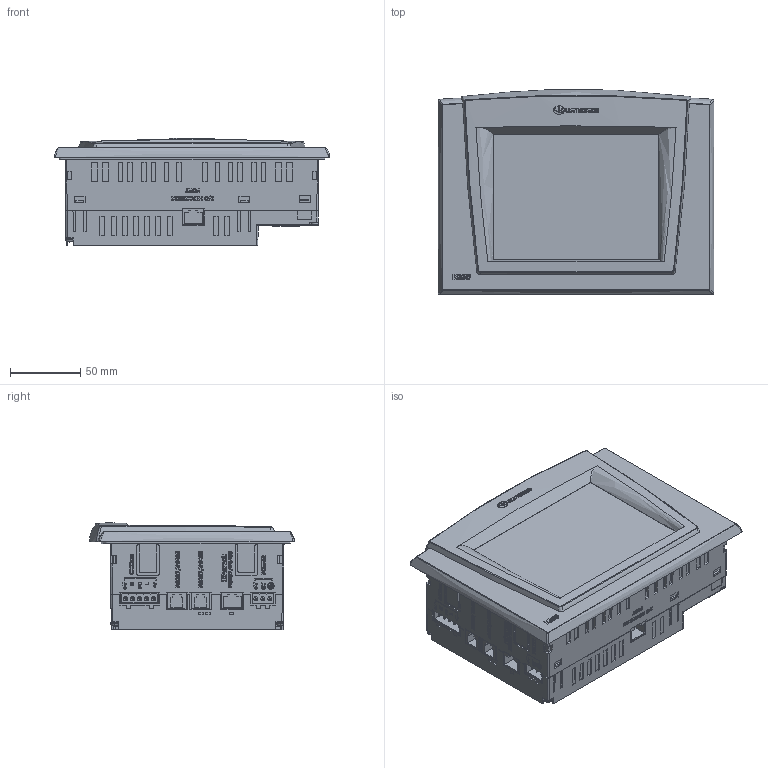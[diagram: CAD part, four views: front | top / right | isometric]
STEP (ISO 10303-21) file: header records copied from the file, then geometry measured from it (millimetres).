
FILE_DESCRIPTION (( 'STEP AP203' ), '1' );
FILE_NAME ('V530-53-B20B.STEP', '2012-06-24T06:35:58', ( 'unitronics' ), ( 'unitronics' ), 'SwSTEP 2.0', 'SolidWorks 2011', '' );
FILE_SCHEMA (( 'CONFIG_CONTROL_DESIGN' ));
Products named in the file (1): V530-53-B20B
Bounding box: 196.95 x 146.39 x 76.67 mm (x, y, z)
Volume: 1460260.1 mm3; surface area: 158573 mm2
Topology: 1 solids, 9 shells, 3953 faces, 10728 edges, 7073 vertices
Faces by surface type: plane 2116, bspline 1363, cylinder 351, cone 81, torus 38, sphere 4
Entity records: 165429 total; most frequent: CARTESIAN_POINT 76832, ORIENTED_EDGE 21456, DIRECTION 12879, EDGE_CURVE 10728, VERTEX_POINT 7073, VECTOR 6549, LINE 6549, EDGE_LOOP 4267
